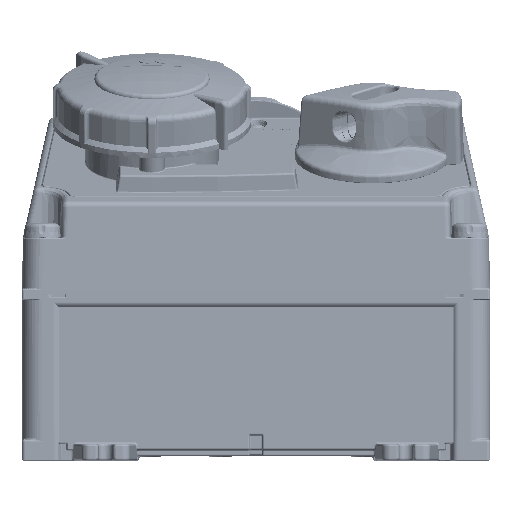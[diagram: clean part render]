
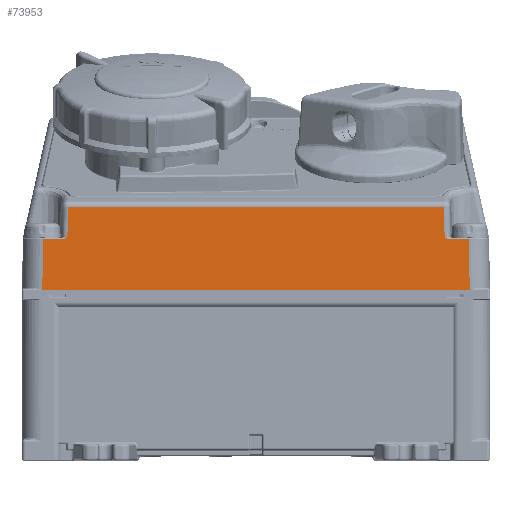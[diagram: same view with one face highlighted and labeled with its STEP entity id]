
A CAD part, front view. The second image highlights one B-rep face of the part: STEP entity #73953.
In plain terms, the highlighted planar face has unit normal (0, -1, 0.018).
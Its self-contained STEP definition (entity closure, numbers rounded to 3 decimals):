
#6328=CARTESIAN_POINT('',(1.,0.,82.));
#10119=DIRECTION('',(1.,0.,0.));
#10120=VECTOR('',#10119,223.);
#10121=CARTESIAN_POINT('',(1.,0.,
82.));
#10122=LINE('28899',#10121,#10120);
#10123=DIRECTION('',(0.017,0.017,1.));
#10124=VECTOR('',#10123,24.457);
#10125=CARTESIAN_POINT('',(9.75,0.001,
82.059));
#10126=LINE('28902',#10125,#10124);
#10127=DIRECTION('',(0.009,0.017,1.));
#10128=VECTOR('',#10127,14.45);
#10129=CARTESIAN_POINT('',(21.854,0.445,
107.491));
#10130=LINE('28905',#10129,#10128);
#10131=DIRECTION('',(0.009,-0.017,-1.));
#10132=VECTOR('',#10131,14.45);
#10133=CARTESIAN_POINT('',(203.02,0.697,
121.939));
#10134=LINE('28907',#10133,#10132);
#10135=DIRECTION('',(0.017,-0.017,-1.));
#10136=VECTOR('',#10135,24.457);
#10137=CARTESIAN_POINT('',(214.824,0.428,
106.509));
#10138=LINE('28910',#10137,#10136);
#10146=DIRECTION('',(-1.,0.,0.));
#10147=VECTOR('',#10146,8.749);
#10148=CARTESIAN_POINT('',(9.75,0.001,
82.059));
#10149=LINE('28901',#10148,#10147);
#10259=DIRECTION('',(-0.012,-0.017,-1.));
#10260=VECTOR('',#10259,0.059);
#10261=CARTESIAN_POINT('',(1.001,0.001,
82.059));
#10262=LINE('28913',#10261,#10260);
#10884=DIRECTION('',(-1.,0.,0.));
#10885=VECTOR('',#10884,8.749);
#10886=CARTESIAN_POINT('',(223.999,0.001,
82.059));
#10887=LINE('28911',#10886,#10885);
#10926=DIRECTION('',(-0.012,0.017,1.));
#10927=VECTOR('',#10926,0.059);
#10928=CARTESIAN_POINT('',(224.,0.,
82.));
#10929=LINE('28912',#10928,#10927);
#23123=CARTESIAN_POINT('',(205.578,0.428,
106.509));
#23124=CARTESIAN_POINT('',(205.518,0.428,
106.509));
#23125=CARTESIAN_POINT('',(205.394,0.428,
106.514));
#23126=CARTESIAN_POINT('',(205.196,0.428,
106.539));
#23127=CARTESIAN_POINT('',(204.979,0.429,
106.584));
#23128=CARTESIAN_POINT('',(204.739,0.43,
106.653));
#23129=CARTESIAN_POINT('',(204.474,0.432,
106.752));
#23130=CARTESIAN_POINT('',(204.184,0.434,
106.883));
#23131=CARTESIAN_POINT('',(203.869,0.437,
107.049));
#23132=CARTESIAN_POINT('',(203.526,0.441,
107.252));
#23133=CARTESIAN_POINT('',(203.277,0.443,
107.409));
#23134=CARTESIAN_POINT('',(203.146,0.445,
107.491));
#23140=DIRECTION('',(-1.,0.,0.));
#23141=VECTOR('',#23140,9.246);
#23142=CARTESIAN_POINT('',(214.824,0.428,
106.509));
#23143=LINE('28909',#23142,#23141);
#23176=DIRECTION('',(-1.,0.,0.));
#23177=VECTOR('',#23176,181.04);
#23178=CARTESIAN_POINT('',(203.02,0.697,
121.939));
#23179=LINE('28906',#23178,#23177);
#23567=CARTESIAN_POINT('',(21.854,0.445,
107.491));
#23568=CARTESIAN_POINT('',(21.723,0.443,
107.409));
#23569=CARTESIAN_POINT('',(21.474,0.441,
107.252));
#23570=CARTESIAN_POINT('',(21.131,0.437,
107.05));
#23571=CARTESIAN_POINT('',(20.816,0.434,
106.883));
#23572=CARTESIAN_POINT('',(20.526,0.432,
106.752));
#23573=CARTESIAN_POINT('',(20.261,0.43,
106.653));
#23574=CARTESIAN_POINT('',(20.022,0.429,
106.584));
#23575=CARTESIAN_POINT('',(19.804,0.428,
106.539));
#23576=CARTESIAN_POINT('',(19.605,0.428,
106.514));
#23577=CARTESIAN_POINT('',(19.482,0.428,
106.509));
#23578=CARTESIAN_POINT('',(19.422,0.428,
106.509));
#23589=DIRECTION('',(-1.,0.,0.));
#23590=VECTOR('',#23589,9.246);
#23591=CARTESIAN_POINT('',(19.422,0.428,
106.509));
#23592=LINE('28903',#23591,#23590);
#47616=VERTEX_POINT('',#6328);
#48468=CARTESIAN_POINT('',(224.,0.,
82.));
#48469=VERTEX_POINT('',#48468);
#48470=CARTESIAN_POINT('',(9.75,0.001,
82.059));
#48471=CARTESIAN_POINT('',(1.001,0.001,
82.059));
#48472=VERTEX_POINT('',#48470);
#48473=VERTEX_POINT('',#48471);
#48474=CARTESIAN_POINT('',(10.176,0.428,
106.509));
#48475=VERTEX_POINT('',#48474);
#48476=CARTESIAN_POINT('',(19.422,0.428,
106.509));
#48477=VERTEX_POINT('',#48476);
#48478=VERTEX_POINT('',#23567);
#48479=CARTESIAN_POINT('',(21.98,0.697,
121.939));
#48480=VERTEX_POINT('',#48479);
#48481=CARTESIAN_POINT('',(203.02,0.697,
121.939));
#48482=VERTEX_POINT('',#48481);
#48483=CARTESIAN_POINT('',(203.146,0.445,
107.491));
#48484=VERTEX_POINT('',#48483);
#48485=VERTEX_POINT('',#23123);
#48486=CARTESIAN_POINT('',(214.824,0.428,
106.509));
#48487=VERTEX_POINT('',#48486);
#48488=CARTESIAN_POINT('',(215.25,0.001,
82.059));
#48489=VERTEX_POINT('',#48488);
#48490=CARTESIAN_POINT('',(223.999,0.001,
82.059));
#48491=VERTEX_POINT('',#48490);
#73919=CARTESIAN_POINT('',(0.,0.733,124.));
#73920=DIRECTION('',(0.,-1.,0.017));
#73921=DIRECTION('',(0.,-0.017,-1.));
#73922=AXIS2_PLACEMENT_3D('',#73919,#73920,#73921);
#73923=PLANE('35526',#73922);
#73925=ORIENTED_EDGE('28901',*,*,#73924,.F.);
#73927=ORIENTED_EDGE('28902',*,*,#73926,.T.);
#73929=ORIENTED_EDGE('28903',*,*,#73928,.F.);
#73931=ORIENTED_EDGE('28904',*,*,#73930,.F.);
#73933=ORIENTED_EDGE('28905',*,*,#73932,.T.);
#73935=ORIENTED_EDGE('28906',*,*,#73934,.F.);
#73937=ORIENTED_EDGE('28907',*,*,#73936,.T.);
#73939=ORIENTED_EDGE('28908',*,*,#73938,.F.);
#73941=ORIENTED_EDGE('28909',*,*,#73940,.F.);
#73943=ORIENTED_EDGE('28910',*,*,#73942,.T.);
#73945=ORIENTED_EDGE('28911',*,*,#73944,.F.);
#73947=ORIENTED_EDGE('28912',*,*,#73946,.F.);
#73948=ORIENTED_EDGE('28899',*,*,#73905,.F.);
#73950=ORIENTED_EDGE('28913',*,*,#73949,.F.);
#73951=EDGE_LOOP('35526',(#73925,#73927,#73929,#73931,#73933,#73935,#73937,
#73939,#73941,#73943,#73945,#73947,#73948,#73950));
#73952=FACE_OUTER_BOUND('35526',#73951,.F.);
#23135=B_SPLINE_CURVE_WITH_KNOTS('28908',3,(#23123,#23124,#23125,#23126,#23127,
#23128,#23129,#23130,#23131,#23132,#23133,#23134),.UNSPECIFIED.,.F.,.F.,(4,1,1,
1,1,1,1,1,1,4),(0.,0.111,0.222,0.333,
0.444,0.556,0.667,0.778,
0.889,1.),.UNSPECIFIED.);
#23579=B_SPLINE_CURVE_WITH_KNOTS('28904',3,(#23567,#23568,#23569,#23570,#23571,
#23572,#23573,#23574,#23575,#23576,#23577,#23578),.UNSPECIFIED.,.F.,.F.,(4,1,1,
1,1,1,1,1,1,4),(0.,0.111,0.222,0.333,
0.444,0.556,0.667,0.778,
0.889,1.),.UNSPECIFIED.);
#73905=EDGE_CURVE('28899',#47616,#48469,#10122,.T.);
#73924=EDGE_CURVE('28901',#48472,#48473,#10149,.T.);
#73926=EDGE_CURVE('28902',#48472,#48475,#10126,.T.);
#73928=EDGE_CURVE('28903',#48477,#48475,#23592,.T.);
#73930=EDGE_CURVE('28904',#48478,#48477,#23579,.T.);
#73932=EDGE_CURVE('28905',#48478,#48480,#10130,.T.);
#73934=EDGE_CURVE('28906',#48482,#48480,#23179,.T.);
#73936=EDGE_CURVE('28907',#48482,#48484,#10134,.T.);
#73938=EDGE_CURVE('28908',#48485,#48484,#23135,.T.);
#73940=EDGE_CURVE('28909',#48487,#48485,#23143,.T.);
#73942=EDGE_CURVE('28910',#48487,#48489,#10138,.T.);
#73944=EDGE_CURVE('28911',#48491,#48489,#10887,.T.);
#73946=EDGE_CURVE('28912',#48469,#48491,#10929,.T.);
#73949=EDGE_CURVE('28913',#48473,#47616,#10262,.T.);
#73953=ADVANCED_FACE('35526',(#73952),#73923,.T.);
